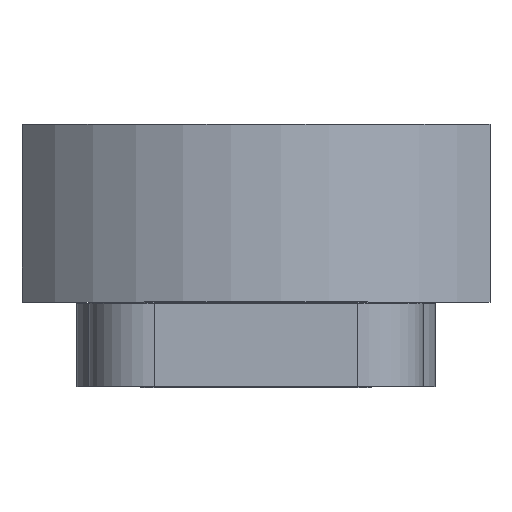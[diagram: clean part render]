
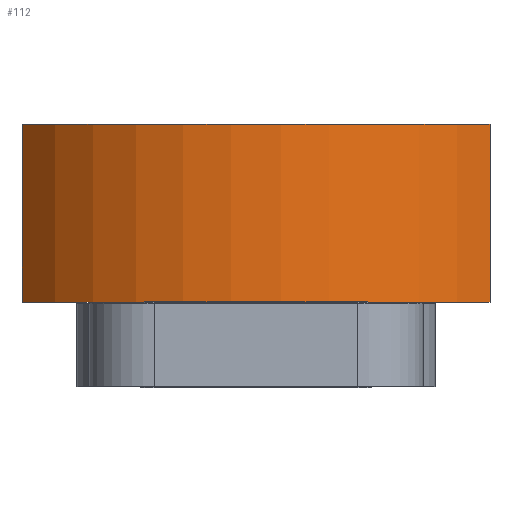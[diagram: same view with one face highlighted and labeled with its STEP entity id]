
A CAD part, top view. The second image highlights one B-rep face of the part: STEP entity #112.
In plain terms, the highlighted cylindrical face has radius 249 mm (diameter 498 mm), a partial arc.
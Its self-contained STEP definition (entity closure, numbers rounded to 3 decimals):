
#112=ADVANCED_FACE('',(#185),#186,.T.);
#185=FACE_OUTER_BOUND('',#293,.T.);
#186=CYLINDRICAL_SURFACE('',#294,249.0);
#293=EDGE_LOOP('',(#499,#500,#501,#502));
#294=AXIS2_PLACEMENT_3D('',#503,#504,#505);
#499=ORIENTED_EDGE('',*,*,#810,.T.);
#500=ORIENTED_EDGE('',*,*,#811,.F.);
#501=ORIENTED_EDGE('',*,*,#812,.F.);
#502=ORIENTED_EDGE('',*,*,#808,.T.);
#503=CARTESIAN_POINT('',(0.0,98.0,0.0));
#504=DIRECTION('',(-0.0,1.0,0.0));
#505=DIRECTION('',(0.803,0.0,0.596));
#808=EDGE_CURVE('',#957,#955,#958,.T.);
#810=EDGE_CURVE('',#955,#960,#961,.T.);
#811=EDGE_CURVE('',#962,#960,#963,.T.);
#812=EDGE_CURVE('',#957,#962,#964,.T.);
#955=VERTEX_POINT('',#1183);
#957=VERTEX_POINT('',#1186);
#958=LINE('',#1187,#1188);
#960=VERTEX_POINT('',#1191);
#961=CIRCLE('',#1192,249.0);
#962=VERTEX_POINT('',#1193);
#963=LINE('',#1194,#1195);
#964=CIRCLE('',#1196,249.0);
#1183=CARTESIAN_POINT('',(200.0,250.0,148.327));
#1186=CARTESIAN_POINT('',(200.0,98.0,148.327));
#1187=CARTESIAN_POINT('',(200.0,98.0,148.327));
#1188=VECTOR('',#1434,1.0);
#1191=CARTESIAN_POINT('',(-200.0,250.0,148.327));
#1192=AXIS2_PLACEMENT_3D('',#1436,#1437,#1438);
#1193=CARTESIAN_POINT('',(-200.0,98.0,148.327));
#1194=CARTESIAN_POINT('',(-200.0,98.0,148.327));
#1195=VECTOR('',#1439,1.0);
#1196=AXIS2_PLACEMENT_3D('',#1440,#1441,#1442);
#1434=DIRECTION('',(0.0,1.0,0.0));
#1436=CARTESIAN_POINT('',(0.0,250.0,0.0));
#1437=DIRECTION('',(0.0,-1.0,0.0));
#1438=DIRECTION('',(0.803,0.0,0.596));
#1439=DIRECTION('',(0.0,1.0,0.0));
#1440=CARTESIAN_POINT('',(0.0,98.0,0.0));
#1441=DIRECTION('',(0.0,-1.0,0.0));
#1442=DIRECTION('',(0.803,0.0,0.596));
